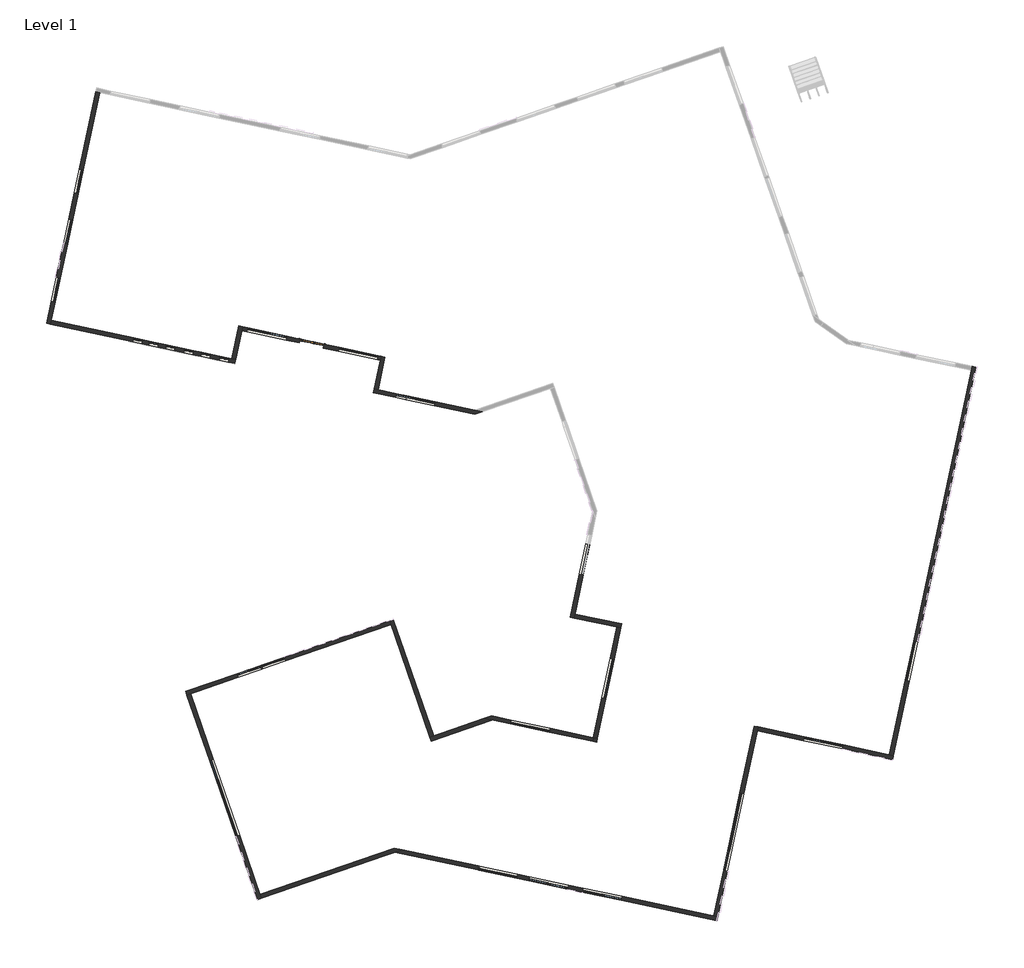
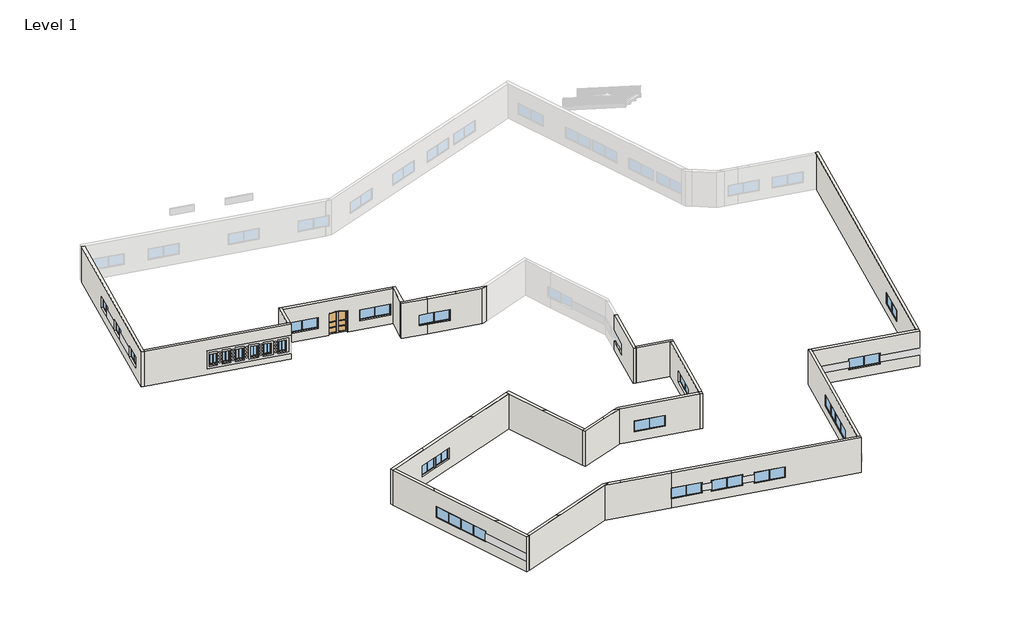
# One storey, part 1 of 2: 25 windows, 22 walls, 1 door.
"""IFC4 building model written with IfcOpenShell, lengths in millimetres."""

from ifc_helpers import new_model, si_unit, point, frame, frame_2d, origin, origin_with_axes, place, context, project, spatial, polyline, circle_curve, trimmed, segment, composite_curve, outline, extrude, faceted_brep, transform, mapped, element, save
from components import door_2f4aef03, aluminum_exterior_window_2_wide_3886_1d34d12d, aluminum_exterior_window_2_wide_3886_5f28be50, aluminum_exterior_window_2_wide_3886_f8047025

model = new_model("IFC4")

# Units and contexts
model_context = context("Model", 3, world=origin())
ifc_project = project(units=[si_unit("LENGTHUNIT", "METRE", prefix="MILLI")], contexts=[model_context])

# Site, building, storey
site = spatial("IfcSite", under=ifc_project)
building = spatial("IfcBuilding", under=site)
storey = spatial("IfcBuildingStorey", under=building, Name="Level 1", Elevation=0.0)

# Door
placement = place(None, origin())
door_shape = door_2f4aef03(model_context)
element("IfcDoor", 1, ObjectType="arched-double-panel_10340 : 72\" x 84\"", at=placement, inside=storey, context=model_context, shape_type="MappedRepresentation", body=[
    mapped(door_shape, transform((465416.15408, 15990.8614282, 0.0), x_axis=(0.9781476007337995, -0.20791169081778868, 0.0), y_axis=(0.20791169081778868, 0.9781476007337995, 0.0), z_axis=(0.0, 0.0, 1.0))),
])

# Walls
element("IfcWall", 2, ObjectType="0.3", at=placement, inside=storey, context=model_context, shape_type="Brep", body=[
    faceted_brep([(470024.8423404, 12302.0519214, 0.0), (472458.7177624, 11784.7157302, 0.0), (472458.7177624, 11784.7157302, 1016.0), (471666.9958848, 11953.0014103, 1016.0), (471666.9958848, 11953.0014103, 2235.2), (472458.7177624, 11784.7157302, 2235.2), (472458.7177624, 11784.7157302, 3900.0), (470024.8423404, 12302.0519214, 3900.0), (472521.0912696, 12078.1600104, 0.0), (470380.6601278, 12533.1226944, 0.0), (470087.2158476, 12595.4962016, 0.0), (470087.2158476, 12595.4962016, 3900.0), (470380.6601278, 12533.1226944, 3900.0), (472521.0912696, 12078.1600104, 3900.0), (472521.0912696, 12078.1600104, 2235.2), (471729.369392, 12246.4456905, 2235.2), (471729.369392, 12246.4456905, 1016.0), (472521.0912696, 12078.1600104, 1016.0)], [[[0, 1, 2, 3, 4, 5, 6, 7]], [[8, 9, 10, 11, 12, 13, 14, 15, 16, 17]], [[1, 0, 10, 9, 8]], [[1, 8, 17, 2]], [[13, 6, 5, 14]], [[0, 7, 11, 10]], [[7, 6, 13, 12, 11]], [[16, 3, 2, 17]], [[3, 16, 15, 4]], [[4, 15, 14, 5]]]),
])
element("IfcWall", 3, ObjectType="0.3", at=placement, inside=storey, context=model_context, shape_type="Brep", body=[
    faceted_brep([(470606.9950747, 15040.8652035, 0.0), (470544.6215674, 14747.4209232, 0.0), (470087.2158476, 12595.4962016, 0.0), (470087.2158476, 12595.4962016, 3900.0), (470544.6215674, 14747.4209232, 3900.0), (470606.9950747, 15040.8652035, 3900.0), (470900.4393549, 14978.4916962, 0.0), (470900.4393549, 14978.4916962, 3900.0), (470380.6601278, 12533.1226944, 3900.0), (470380.6601278, 12533.1226944, 0.0)], [[[0, 1, 2, 3, 4, 5]], [[6, 7, 8, 9]], [[2, 1, 0, 6, 9]], [[3, 2, 9, 8]], [[0, 5, 7, 6]], [[5, 4, 3, 8, 7]]]),
])
element("IfcWall", 4, ObjectType="0.3", at=placement, inside=storey, context=model_context, shape_type="Brep", body=[
    faceted_brep([(478179.6122647, 10875.4042435, 0.0), (477610.7570269, 10996.318157, 0.0), (472521.0912696, 12078.1600104, 0.0), (472521.0912696, 12078.1600104, 1016.0), (474663.8121942, 11622.7106181, 1016.0), (474663.8121942, 11622.7106181, 2235.2), (472521.0912696, 12078.1600104, 2235.2), (472521.0912696, 12078.1600104, 3900.0), (475243.5442016, 11499.4847759, 3900.0), (477610.7570269, 10996.318157, 3900.0), (478179.6122647, 10875.4042435, 3900.0), (472458.7177624, 11784.7157302, 0.0), (477629.912649, 10685.5443254, 0.0), (477629.912649, 10685.5443254, 3900.0), (475181.1706944, 11206.0404956, 3900.0), (472458.7177624, 11784.7157302, 3900.0), (472458.7177624, 11784.7157302, 2235.2), (474601.438687, 11329.2663378, 2235.2), (474601.438687, 11329.2663378, 1016.0), (472458.7177624, 11784.7157302, 1016.0)], [[[0, 1, 2, 3, 4, 5, 6, 7, 8, 9, 10]], [[11, 12, 13, 14, 15, 16, 17, 18, 19]], [[2, 1, 0, 12, 11]], [[2, 11, 19, 3]], [[15, 7, 6, 16]], [[0, 10, 13, 12]], [[17, 5, 4, 18]], [[18, 4, 3, 19]], [[5, 17, 16, 6]], [[13, 10, 9, 8, 14]], [[7, 15, 14, 8]]]),
])
element("IfcWall", 5, ObjectType="0.3", at=placement, inside=storey, context=model_context, shape_type="Brep", body=[
    faceted_brep([(485927.4710533, 1000.338598, 0.0), (484762.4328024, -4480.7354362, 0.0), (484762.4328024, -4480.7354362, 3900.0), (485927.4710533, 1000.338598, 3900.0), (485927.4710533, 1000.338598, 2235.2), (485448.5413821, -1252.8483538, 2235.2), (485448.5413821, -1252.8483538, 1016.0), (485927.4710533, 1000.338598, 1016.0), (485055.8770826, -4543.1089434, 0.0), (485118.2505898, -4249.6646632, 0.0), (486220.9153335, 937.9650907, 0.0), (486220.9153335, 937.9650907, 1016.0), (485741.9856623, -1315.221861, 1016.0), (485741.9856623, -1315.221861, 2235.2), (486220.9153335, 937.9650907, 2235.2), (486220.9153335, 937.9650907, 3900.0), (485118.2505898, -4249.6646632, 3900.0), (485055.8770826, -4543.1089434, 3900.0)], [[[0, 1, 2, 3, 4, 5, 6, 7]], [[8, 9, 10, 11, 12, 13, 14, 15, 16, 17]], [[1, 0, 10, 9, 8]], [[10, 0, 7, 11]], [[3, 15, 14, 4]], [[2, 1, 8, 17]], [[3, 2, 17, 16, 15]], [[5, 13, 12, 6]], [[6, 12, 11, 7]], [[13, 5, 4, 14]]]),
])
element("IfcWall", 6, ObjectType="0.3", at=placement, inside=storey, context=model_context, shape_type="Brep", body=[
    faceted_brep([(485055.8770826, -4543.1089434, 0.0), (488251.0783713, -5222.2699432, 0.0), (488544.5226516, -5284.6434505, 0.0), (488544.5226516, -5284.6434505, 3900.0), (488251.0783713, -5222.2699432, 3900.0), (485055.8770826, -4543.1089434, 3900.0), (485118.2505898, -4249.6646632, 0.0), (485118.2505898, -4249.6646632, 3900.0), (488606.8961588, -4991.1991702, 3900.0), (488606.8961588, -4991.1991702, 0.0)], [[[0, 1, 2, 3, 4, 5]], [[6, 7, 8, 9]], [[2, 1, 0, 6, 9]], [[0, 5, 7, 6]], [[3, 2, 9, 8]], [[5, 4, 3, 8, 7]]]),
])
element("IfcWall", 7, ObjectType="0.3", at=placement, inside=storey, context=model_context, shape_type="SweptSolid", body=[
    extrude(outline(polyline([(2063.5316041, 0.0), (2063.5316041, -3900.0), (-6384.253191, -3900.0), (-6384.253191, 0.0), (2063.5316041, 0.0)]), holes=[polyline([(-3336.4683958, -2235.2), (-336.4683958, -2235.2), (-336.4683958, -1016.0), (-3336.4683958, -1016.0), (-3336.4683958, -2235.2)])]), frame((488115.4903067, -7303.0819381, 0.0), z_axis=(-0.9781476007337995, 0.20791169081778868, 0.0), x_axis=(0.20791169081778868, 0.9781476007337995, 0.0)), (0.0, 0.0, 1.0), 300.0),
])
element("IfcWall", 8, ObjectType="0.3", at=placement, inside=storey, context=model_context, shape_type="SweptSolid", body=[
    extrude(outline(polyline([(486494.6851509, -13485.4503721), (486788.1294311, -13547.8238793), (486725.7559239, -13841.2681596), (486432.3116437, -13778.8946523), (486494.6851509, -13485.4503721)])), origin_with_axes(), (0.0, 0.0, 1.0), 3900.0),
])
element("IfcWall", 9, ObjectType="0.3", at=placement, inside=storey, context=model_context, shape_type="Brep", body=[
    faceted_brep([(486494.6851509, -13485.4503721, 0.0), (478874.7788643, -11865.7892916, 0.0), (478874.7788643, -11865.7892916, 3900.0), (486494.6851509, -13485.4503721, 3900.0), (480332.3552663, -12175.6067199, 2235.2), (480332.3552663, -12175.6067199, 1016.0), (483266.7980685, -12799.3417924, 1016.0), (483266.7980685, -12799.3417924, 2235.2), (486432.3116437, -13778.8946523, 0.0), (486432.3116437, -13778.8946523, 3900.0), (478893.9344864, -12176.5631232, 3900.0), (478325.0792486, -12055.6492098, 3900.0), (478325.0792486, -12055.6492098, 0.0), (478893.9344864, -12176.5631232, 0.0), (480269.981759, -12469.0510002, 2235.2), (483204.4245612, -13092.7860726, 2235.2), (483204.4245612, -13092.7860726, 1016.0), (480269.981759, -12469.0510002, 1016.0)], [[[0, 1, 2, 3], [4, 5, 6, 7]], [[8, 9, 10, 11, 12, 13], [14, 15, 16, 17]], [[1, 0, 8, 13, 12]], [[2, 1, 12, 11]], [[0, 3, 9, 8]], [[3, 2, 11, 10, 9]], [[5, 4, 14, 17]], [[6, 5, 17, 16]], [[7, 6, 16, 15]], [[4, 7, 15, 14]]]),
])
element("IfcWall", 10, ObjectType="0.3", at=placement, inside=storey, context=model_context, shape_type="Brep", body=[
    faceted_brep([(478325.0792486, -12055.6492098, 0.0), (474530.366054, -13366.299456, 0.0), (474246.8032117, -13464.2387969, 0.0), (474246.8032117, -13464.2387969, 3900.0), (474530.366054, -13366.299456, 3900.0), (476983.6617907, -12518.9593551, 3900.0), (478325.0792486, -12055.6492098, 3900.0), (478893.9344864, -12176.5631232, 0.0), (478893.9344864, -12176.5631232, 3900.0), (476840.9787732, -12885.6303895, 3900.0), (474344.7425526, -13747.8016392, 3900.0), (474344.7425526, -13747.8016392, 0.0)], [[[0, 1, 2, 3, 4, 5, 6]], [[7, 8, 9, 10, 11]], [[2, 1, 0, 7, 11]], [[0, 6, 8, 7]], [[3, 2, 11, 10]], [[6, 5, 9, 8]], [[5, 4, 3, 10, 9]]]),
])
element("IfcWall", 11, ObjectType="0.3", at=placement, inside=storey, context=model_context, shape_type="Brep", body=[
    faceted_brep([(471239.3373805, -4756.7515747, 0.0), (471337.2767214, -5040.314417, 0.0), (474246.8032117, -13464.2387969, 0.0), (474246.8032117, -13464.2387969, 3900.0), (472650.2779408, -8841.8343619, 3900.0), (471337.2767214, -5040.314417, 3900.0), (471239.3373805, -4756.7515747, 3900.0), (471522.9002228, -4658.8122338, 0.0), (471522.9002228, -4658.8122338, 3900.0), (473015.5635343, -8980.5061255, 3900.0), (474530.366054, -13366.299456, 3900.0), (474530.366054, -13366.299456, 0.0)], [[[0, 1, 2, 3, 4, 5, 6]], [[7, 8, 9, 10, 11]], [[2, 1, 0, 7, 11]], [[3, 2, 11, 10]], [[0, 6, 8, 7]], [[6, 5, 4, 9, 8]], [[4, 3, 10, 9]]]),
])
element("IfcWall", 12, ObjectType="0.3", at=placement, inside=storey, context=model_context, shape_type="Brep", body=[
    faceted_brep([(456087.7703038, -10307.3183555, 0.0), (456371.3331461, -10209.3790146, 0.0), (471337.2767214, -5040.314417, 0.0), (471337.2767214, -5040.314417, 3900.0), (466781.4051655, -6613.8599974, 3900.0), (460045.3029754, -8940.4321365, 3900.0), (456371.3331461, -10209.3790146, 3900.0), (456087.7703038, -10307.3183555, 3900.0), (463487.6262355, -7751.4933163, 2235.2), (463487.6262355, -7751.4933163, 1016.0), (461759.027149, -8348.5315382, 1016.0), (461759.027149, -8348.5315382, 2235.2), (461664.5062016, -8381.1779852, 2235.2), (461664.5062016, -8381.1779852, 1016.0), (459935.9071152, -8978.2162071, 1016.0), (459935.9071152, -8978.2162071, 2235.2), (455989.830963, -10023.7555132, 0.0), (455989.830963, -10023.7555132, 3900.0), (460186.4503328, -8574.2915014, 3900.0), (466343.6344135, -6447.6710119, 3900.0), (471239.3373805, -4756.7515747, 3900.0), (471239.3373805, -4756.7515747, 0.0), (463389.6868946, -7467.9304741, 2235.2), (461661.0878082, -8064.968696, 2235.2), (461661.0878082, -8064.968696, 1016.0), (463389.6868946, -7467.9304741, 1016.0), (461566.5668608, -8097.6151429, 2235.2), (459837.9677743, -8694.6533648, 2235.2), (459837.9677743, -8694.6533648, 1016.0), (461566.5668608, -8097.6151429, 1016.0)], [[[0, 1, 2, 3, 4, 5, 6, 7], [8, 9, 10, 11], [12, 13, 14, 15]], [[16, 17, 18, 19, 20, 21], [22, 23, 24, 25], [26, 27, 28, 29]], [[2, 1, 0, 16, 21]], [[3, 2, 21, 20]], [[0, 7, 17, 16]], [[9, 8, 22, 25]], [[10, 9, 25, 24]], [[11, 10, 24, 23]], [[8, 11, 23, 22]], [[13, 12, 26, 29]], [[14, 13, 29, 28]], [[15, 14, 28, 27]], [[12, 15, 27, 26]], [[7, 6, 5, 18, 17]], [[4, 3, 20, 19]], [[5, 4, 19, 18]]]),
])
element("IfcWall", 13, ObjectType="0.3", at=placement, inside=storey, context=model_context, shape_type="Brep", body=[
    faceted_brep([(461654.8754918, -25506.7689254, 0.0), (461556.936151, -25223.2060831, 0.0), (456371.3331461, -10209.3790146, 0.0), (456371.3331461, -10209.3790146, 3900.0), (457876.3360847, -14566.7997114, 3900.0), (460471.7147356, -22081.1748388, 3900.0), (461556.936151, -25223.2060831, 3900.0), (461654.8754918, -25506.7689254, 3900.0), (460022.5531441, -20780.7215543, 2235.2), (458068.9483877, -15124.4682805, 2235.2), (458068.9483877, -15124.4682805, 1016.0), (460022.5531441, -20780.7215543, 1016.0), (456087.7703038, -10307.3183555, 0.0), (461371.3126496, -25604.7082662, 0.0), (461371.3126496, -25604.7082662, 3900.0), (460106.4291421, -21942.5030752, 3900.0), (457708.931766, -15001.0517208, 3900.0), (456087.7703038, -10307.3183555, 3900.0), (459738.9903019, -20878.6608952, 1016.0), (457785.3855454, -15222.4076213, 1016.0), (457785.3855454, -15222.4076213, 2235.2), (459738.9903019, -20878.6608952, 2235.2)], [[[0, 1, 2, 3, 4, 5, 6, 7], [8, 9, 10, 11]], [[12, 13, 14, 15, 16, 17], [18, 19, 20, 21]], [[2, 1, 0, 13, 12]], [[3, 2, 12, 17]], [[0, 7, 14, 13]], [[10, 9, 20, 19]], [[10, 19, 18, 11]], [[20, 9, 8, 21]], [[11, 18, 21, 8]], [[3, 17, 16, 4]], [[14, 7, 6, 5, 15]], [[5, 4, 16, 15]]]),
])
element("IfcWall", 14, ObjectType="0.3", at=placement, inside=storey, context=model_context, shape_type="Brep", body=[
    faceted_brep([(471608.90392, -21751.372151, 0.0), (461556.936151, -25223.2060831, 0.0), (461556.936151, -25223.2060831, 3900.0), (465322.4538861, -23922.6396124, 3900.0), (471608.90392, -21751.372151, 3900.0), (472177.7591578, -21872.2860644, 0.0), (472177.7591578, -21872.2860644, 3900.0), (471628.0595421, -22062.1459826, 3900.0), (465760.2246381, -24088.828598, 3900.0), (461654.8754918, -25506.7689254, 3900.0), (461654.8754918, -25506.7689254, 0.0), (471628.0595421, -22062.1459826, 0.0)], [[[0, 1, 2, 3, 4]], [[5, 6, 7, 8, 9, 10, 11]], [[1, 0, 5, 11, 10]], [[0, 4, 6, 5]], [[2, 1, 10, 9]], [[3, 2, 9, 8]], [[4, 3, 8, 7, 6]]]),
])
element("IfcWall", 15, ObjectType="0.3", at=placement, inside=storey, context=model_context, shape_type="Brep", body=[
    faceted_brep([(477996.2393478, -23109.0422077, 0.0), (472177.7591578, -21872.2860644, 0.0), (472177.7591578, -21872.2860644, 3900.0), (473254.9007772, -22101.2395835, 3900.0), (477996.2393478, -23109.0422077, 3900.0), (477996.2393478, -23109.0422077, 2235.2), (477891.765049, -23086.83551, 2235.2), (477891.765049, -23086.83551, 1016.0), (477996.2393478, -23109.0422077, 1016.0), (471628.0595421, -22062.1459826, 0.0), (477933.8658406, -23402.486488, 0.0), (477933.8658406, -23402.486488, 1016.0), (477829.3915417, -23380.2797902, 1016.0), (477829.3915417, -23380.2797902, 2235.2), (477933.8658406, -23402.486488, 2235.2), (477933.8658406, -23402.486488, 3900.0), (473144.6708643, -22384.5116706, 3900.0), (471628.0595421, -22062.1459826, 3900.0), (477996.0791123, -23109.7960566, 0.0), (477996.0791123, -23109.7960566, 1016.0), (477996.0791123, -23109.7960566, 3900.0), (477996.0791123, -23109.7960566, 2235.2)], [[[0, 1, 2, 3, 4, 5, 6, 7, 8]], [[9, 10, 11, 12, 13, 14, 15, 16, 17]], [[1, 0, 18, 10, 9]], [[10, 18, 0, 8, 19, 11]], [[4, 20, 15, 14, 21, 5]], [[2, 1, 9, 17]], [[6, 13, 12, 7]], [[7, 12, 11, 19, 8]], [[13, 6, 5, 21, 14]], [[15, 20, 4, 3, 16]], [[2, 17, 16, 3]]]),
])
element("IfcWall", 16, ObjectType="0.3", at=placement, inside=storey, context=model_context, shape_type="Brep", body=[
    faceted_brep([(495791.7059069, -26892.3733009, 0.0), (495498.2616267, -26829.9997936, 0.0), (477996.0791123, -23109.7960566, 0.0), (477996.0791123, -23109.7960566, 1016.0), (480826.0476157, -23711.3244313, 1016.0), (480826.0476157, -23711.3244313, 2235.2), (477996.0791123, -23109.7960566, 2235.2), (477996.0791123, -23109.7960566, 3900.0), (495498.2616267, -26829.9997936, 3900.0), (495791.7059069, -26892.3733009, 3900.0), (481706.3804563, -23898.4449531, 2235.2), (481706.3804563, -23898.4449531, 1016.0), (484640.8232585, -24522.1800255, 1016.0), (484640.8232585, -24522.1800255, 2235.2), (485716.7856193, -24750.8828854, 2235.2), (485716.7856193, -24750.8828854, 1016.0), (488651.2284215, -25374.6179579, 1016.0), (488651.2284215, -25374.6179579, 2235.2), (477933.7056051, -23403.2403369, 0.0), (495729.3323996, -27185.8175811, 0.0), (495729.3323996, -27185.8175811, 3900.0), (477933.7056051, -23403.2403369, 3900.0), (477933.7056051, -23403.2403369, 2235.2), (480763.6741084, -24004.7687116, 2235.2), (480763.6741084, -24004.7687116, 1016.0), (477933.7056051, -23403.2403369, 1016.0), (481644.0069491, -24191.8892333, 2235.2), (484578.4497513, -24815.6243058, 2235.2), (484578.4497513, -24815.6243058, 1016.0), (481644.0069491, -24191.8892333, 1016.0), (485654.4121121, -25044.3271657, 2235.2), (488588.8549143, -25668.0622381, 2235.2), (488588.8549143, -25668.0622381, 1016.0), (485654.4121121, -25044.3271657, 1016.0), (477933.8658406, -23402.486488, 0.0), (477933.8658406, -23402.486488, 1016.0), (477933.8658406, -23402.486488, 3900.0), (477933.8658406, -23402.486488, 2235.2), (495729.4926352, -27185.0637322, 3900.0)], [[[0, 1, 2, 3, 4, 5, 6, 7, 8, 9], [10, 11, 12, 13], [14, 15, 16, 17]], [[18, 19, 20, 21, 22, 23, 24, 25], [26, 27, 28, 29], [30, 31, 32, 33]], [[2, 1, 0, 19, 18, 34]], [[2, 34, 18, 25, 35, 3]], [[36, 7, 6, 37, 22, 21]], [[0, 9, 38, 20, 19]], [[9, 8, 7, 36, 21, 20, 38]], [[24, 4, 3, 35, 25]], [[4, 24, 23, 5]], [[5, 23, 22, 37, 6]], [[11, 10, 26, 29]], [[12, 11, 29, 28]], [[13, 12, 28, 27]], [[10, 13, 27, 26]], [[15, 14, 30, 33]], [[16, 15, 33, 32]], [[17, 16, 32, 31]], [[14, 17, 31, 30]]]),
])
element("IfcWall", 17, ObjectType="0.3", at=placement, inside=storey, context=model_context, shape_type="Brep", body=[
    faceted_brep([(498517.9641303, -12623.4164732, 0.0), (495498.2616267, -26829.9997936, 0.0), (495498.2616267, -26829.9997936, 3900.0), (498517.9641303, -12623.4164732, 3900.0), (496225.9525445, -23406.483191, 1016.0), (497457.6145071, -17611.969237, 1016.0), (497457.6145071, -17611.969237, 2235.2), (496225.9525445, -23406.483191, 2235.2), (495791.7059069, -26892.3733009, 0.0), (498749.0349033, -12979.2342607, 0.0), (498811.4084105, -12685.7899805, 0.0), (498811.4084105, -12685.7899805, 3900.0), (498749.0349033, -12979.2342607, 3900.0), (495791.7059069, -26892.3733009, 3900.0), (496519.3968247, -23468.8566983, 2235.2), (497751.0587874, -17674.3427442, 2235.2), (497751.0587874, -17674.3427442, 1016.0), (496519.3968247, -23468.8566983, 1016.0)], [[[0, 1, 2, 3], [4, 5, 6, 7]], [[8, 9, 10, 11, 12, 13], [14, 15, 16, 17]], [[1, 0, 10, 9, 8]], [[2, 1, 8, 13]], [[0, 3, 11, 10]], [[11, 3, 2, 13, 12]], [[16, 15, 6, 5]], [[16, 5, 4, 17]], [[6, 15, 14, 7]], [[17, 4, 7, 14]]]),
])
element("IfcWall", 18, ObjectType="0.3", at=placement, inside=storey, context=model_context, shape_type="Brep", body=[
    faceted_brep([(508935.2360781, -14837.6759804, 0.0), (508641.7917979, -14775.3024732, 0.0), (498811.4084105, -12685.7899805, 0.0), (498811.4084105, -12685.7899805, 3900.0), (508641.7917979, -14775.3024732, 3900.0), (508935.2360781, -14837.6759804, 3900.0), (505193.8215053, -14042.4137631, 2235.2), (502259.3787031, -13418.6786906, 2235.2), (502259.3787031, -13418.6786906, 1016.0), (505193.8215053, -14042.4137631, 1016.0), (508872.8625709, -15131.1202607, 0.0), (508872.8625709, -15131.1202607, 3900.0), (498749.0349033, -12979.2342607, 3900.0), (498749.0349033, -12979.2342607, 0.0), (505131.4479981, -14335.8580433, 2235.2), (505131.4479981, -14335.8580433, 1016.0), (502197.0051959, -13712.1229708, 1016.0), (502197.0051959, -13712.1229708, 2235.2)], [[[0, 1, 2, 3, 4, 5], [6, 7, 8, 9]], [[10, 11, 12, 13], [14, 15, 16, 17]], [[2, 1, 0, 10, 13]], [[3, 2, 13, 12]], [[0, 5, 11, 10]], [[5, 4, 3, 12, 11]], [[15, 14, 6, 9]], [[16, 15, 9, 8]], [[17, 16, 8, 7]], [[14, 17, 7, 6]]]),
])
element("IfcWall", 19, ObjectType="0.3", at=placement, inside=storey, context=model_context, shape_type="Brep", body=[
    faceted_brep([(514816.7690152, 14275.6812686, 0.0), (514754.395508, 13982.2369884, 0.0), (508641.7917979, -14775.3024732, 0.0), (508641.7917979, -14775.3024732, 3900.0), (514754.395508, 13982.2369884, 3900.0), (514816.7690152, 14275.6812686, 3900.0), (510450.623508, -6265.4183468, 2235.2), (509826.8884356, -9199.861149, 2235.2), (509826.8884356, -9199.861149, 1016.0), (510450.623508, -6265.4183468, 1016.0), (515110.2132954, 14213.3077614, 0.0), (515110.2132954, 14213.3077614, 3900.0), (508935.2360781, -14837.6759804, 3900.0), (508935.2360781, -14837.6759804, 0.0), (510744.0677882, -6327.791854, 2235.2), (510744.0677882, -6327.791854, 1016.0), (510120.3327158, -9262.2346562, 1016.0), (510120.3327158, -9262.2346562, 2235.2)], [[[0, 1, 2, 3, 4, 5], [6, 7, 8, 9]], [[10, 11, 12, 13], [14, 15, 16, 17]], [[2, 1, 0, 10, 13]], [[3, 2, 13, 12]], [[0, 5, 11, 10]], [[5, 4, 3, 12, 11]], [[15, 14, 6, 9]], [[16, 15, 9, 8]], [[17, 16, 8, 7]], [[14, 17, 7, 6]]]),
])
element("IfcWall", 20, ObjectType="0.3", at=placement, inside=storey, context=model_context, shape_type="Brep", body=[
    faceted_brep([(445876.5607005, 17434.927637, 0.0), (445938.9342078, 17728.3719172, 0.0), (449557.1098582, 34750.5500238, 0.0), (449557.1098582, 34750.5500238, 3900.0), (445938.9342078, 17728.3719172, 3900.0), (445876.5607005, 17434.927637, 3900.0), (447950.2019822, 27190.6428472, 2235.2), (448330.4308824, 28979.4791794, 2235.2), (448330.4308824, 28979.4791794, 1016.0), (447950.2019822, 27190.6428472, 1016.0), (447154.1497004, 23445.5113135, 2235.2), (447534.3786006, 25234.3476457, 2235.2), (447534.3786006, 25234.3476457, 1016.0), (447154.1497004, 23445.5113135, 1016.0), (446230.0105749, 19097.7785583, 2235.2), (446610.2394751, 20886.6148905, 2235.2), (446610.2394751, 20886.6148905, 1016.0), (446230.0105749, 19097.7785583, 1016.0), (445583.1164203, 17497.3011443, 0.0), (445583.1164203, 17497.3011443, 3900.0), (449263.665578, 34812.923531, 3900.0), (449263.665578, 34812.923531, 0.0), (447656.757702, 27253.0163544, 2235.2), (447656.757702, 27253.0163544, 1016.0), (448036.9866022, 29041.8526867, 1016.0), (448036.9866022, 29041.8526867, 2235.2), (446860.7054202, 23507.8848208, 2235.2), (446860.7054202, 23507.8848208, 1016.0), (447240.9343204, 25296.721153, 1016.0), (447240.9343204, 25296.721153, 2235.2), (445936.5662947, 19160.1520655, 2235.2), (445936.5662947, 19160.1520655, 1016.0), (446316.7951949, 20948.9883977, 1016.0), (446316.7951949, 20948.9883977, 2235.2)], [[[0, 1, 2, 3, 4, 5], [6, 7, 8, 9], [10, 11, 12, 13], [14, 15, 16, 17]], [[18, 19, 20, 21], [22, 23, 24, 25], [26, 27, 28, 29], [30, 31, 32, 33]], [[2, 1, 0, 18, 21]], [[3, 2, 21, 20]], [[0, 5, 19, 18]], [[5, 4, 3, 20, 19]], [[23, 22, 6, 9]], [[24, 23, 9, 8]], [[25, 24, 8, 7]], [[22, 25, 7, 6]], [[27, 26, 10, 13]], [[28, 27, 13, 12]], [[29, 28, 12, 11]], [[26, 29, 11, 10]], [[31, 30, 14, 17]], [[32, 31, 17, 16]], [[33, 32, 16, 15]], [[30, 33, 15, 14]]]),
])
element("IfcWall", 21, ObjectType="0.3", at=placement, inside=storey, context=model_context, shape_type="Brep", body=[
    faceted_brep([(459729.2939973, 14797.1404562, 0.0), (459435.8497171, 14859.5139634, 0.0), (445938.9342078, 17728.3719172, 0.0), (445938.9342078, 17728.3719172, 3900.0), (459435.8497171, 14859.5139634, 3900.0), (459729.2939973, 14797.1404562, 3900.0), (459240.2201969, 14901.0963016, 2235.2), (458555.5168764, 15046.6344852, 2235.2), (458555.5168764, 15046.6344852, 1016.0), (459240.2201969, 14901.0963016, 1016.0), (457870.8135559, 15192.1726687, 2235.2), (457186.1102354, 15337.7108523, 2235.2), (457186.1102354, 15337.7108523, 1016.0), (457870.8135559, 15192.1726687, 1016.0), (456599.2216749, 15462.4578668, 2235.2), (455914.5183544, 15607.9960504, 2235.2), (455914.5183544, 15607.9960504, 1016.0), (456599.2216749, 15462.4578668, 1016.0), (455229.8150339, 15753.534234, 2235.2), (454545.1117134, 15899.0724175, 2235.2), (454545.1117134, 15899.0724175, 1016.0), (455229.8150339, 15753.534234, 1016.0), (453958.2231529, 16023.819432, 2235.2), (453273.5198324, 16169.3576156, 2235.2), (453273.5198324, 16169.3576156, 1016.0), (453958.2231529, 16023.819432, 1016.0), (452784.4460321, 16273.313461, 2235.2), (452099.7427116, 16418.8516446, 2235.2), (452099.7427116, 16418.8516446, 1016.0), (452784.4460321, 16273.313461, 1016.0), (459666.92049, 14503.696176, 0.0), (459666.92049, 14503.696176, 3900.0), (445876.5607005, 17434.927637, 3900.0), (445876.5607005, 17434.927637, 0.0), (459177.8466897, 14607.6520214, 2235.2), (459177.8466897, 14607.6520214, 1016.0), (458493.1433691, 14753.190205, 1016.0), (458493.1433691, 14753.190205, 2235.2), (457808.4400486, 14898.7283885, 2235.2), (457808.4400486, 14898.7283885, 1016.0), (457123.7367281, 15044.2665721, 1016.0), (457123.7367281, 15044.2665721, 2235.2), (456536.8481677, 15169.0135866, 2235.2), (456536.8481677, 15169.0135866, 1016.0), (455852.1448472, 15314.5517702, 1016.0), (455852.1448472, 15314.5517702, 2235.2), (455167.4415267, 15460.0899537, 2235.2), (455167.4415267, 15460.0899537, 1016.0), (454482.7382061, 15605.6281373, 1016.0), (454482.7382061, 15605.6281373, 2235.2), (453895.8496457, 15730.3751518, 2235.2), (453895.8496457, 15730.3751518, 1016.0), (453211.1463252, 15875.9133354, 1016.0), (453211.1463252, 15875.9133354, 2235.2), (452722.0725248, 15979.8691808, 2235.2), (452722.0725248, 15979.8691808, 1016.0), (452037.3692043, 16125.4073644, 1016.0), (452037.3692043, 16125.4073644, 2235.2)], [[[0, 1, 2, 3, 4, 5], [6, 7, 8, 9], [10, 11, 12, 13], [14, 15, 16, 17], [18, 19, 20, 21], [22, 23, 24, 25], [26, 27, 28, 29]], [[30, 31, 32, 33], [34, 35, 36, 37], [38, 39, 40, 41], [42, 43, 44, 45], [46, 47, 48, 49], [50, 51, 52, 53], [54, 55, 56, 57]], [[2, 1, 0, 30, 33]], [[3, 2, 33, 32]], [[0, 5, 31, 30]], [[5, 4, 3, 32, 31]], [[35, 34, 6, 9]], [[36, 35, 9, 8]], [[37, 36, 8, 7]], [[34, 37, 7, 6]], [[39, 38, 10, 13]], [[40, 39, 13, 12]], [[41, 40, 12, 11]], [[38, 41, 11, 10]], [[43, 42, 14, 17]], [[44, 43, 17, 16]], [[45, 44, 16, 15]], [[42, 45, 15, 14]], [[47, 46, 18, 21]], [[48, 47, 21, 20]], [[49, 48, 20, 19]], [[46, 49, 19, 18]], [[51, 50, 22, 25]], [[52, 51, 25, 24]], [[53, 52, 24, 23]], [[50, 53, 23, 22]], [[55, 54, 26, 29]], [[56, 55, 29, 28]], [[57, 56, 28, 27]], [[54, 57, 27, 26]]]),
])
element("IfcWall", 22, ObjectType="0.3", at=placement, inside=storey, context=model_context, shape_type="Brep", body=[
    faceted_brep([(459955.6289441, 17304.8829653, 0.0), (459435.8497171, 14859.5139634, 0.0), (459435.8497171, 14859.5139634, 3900.0), (459955.6289441, 17304.8829653, 3900.0), (460249.0732243, 17242.509458, 0.0), (460249.0732243, 17242.509458, 3900.0), (460186.6997171, 16949.0651778, 3900.0), (459729.2939973, 14797.1404562, 3900.0), (459729.2939973, 14797.1404562, 0.0), (460186.6997171, 16949.0651778, 0.0)], [[[0, 1, 2, 3]], [[4, 5, 6, 7, 8, 9]], [[1, 0, 4, 9, 8]], [[0, 3, 5, 4]], [[2, 1, 8, 7]], [[3, 2, 7, 6, 5]]]),
])
element("IfcWall", 23, ObjectType="0.3", at=placement, inside=storey, context=model_context, shape_type="SweptSolid", body=[
    extrude(outline(composite_curve([segment(polyline([(-3552.0734478, -3900.0), (-3552.0734478, 0.0), (847.9265522, 0.0), (847.9265522, -2438.4)]), True, "CONTINUOUS"), segment(trimmed(circle_curve(frame_2d((1762.3265522, 425.8020119)), 3006.6227773), [point((847.9265522, -2438.4))], [point((2676.7265522, -2438.4))], True, "CARTESIAN"), True, "CONTINUOUS"), segment(polyline([(2676.7265522, -2438.4), (2676.7265522, 0.0), (7037.2505382, 0.0), (7037.2505382, -3900.0), (-3552.0734478, -3900.0)]), True, "CONTINUOUS")], self_intersect=False), holes=[polyline([(6837.2505383, -2235.2), (6837.2505383, -1016.0), (3837.2505382, -1016.0), (3837.2505382, -2235.2), (6837.2505383, -2235.2)]), polyline([(-152.0734478, -2235.2), (-152.0734478, -1016.0), (-3152.0734478, -1016.0), (-3152.0734478, -2235.2), (-152.0734478, -2235.2)])]), frame((463661.1518377, 16210.5475814, 0.0), z_axis=(0.20791169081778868, 0.9781476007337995, 0.0), x_axis=(0.9781476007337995, -0.20791169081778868, 0.0)), (0.0, 0.0, 1.0), 300.0),
])

# Windows
aluminum_exterior_window_2_wide_3886_shape = aluminum_exterior_window_2_wide_3886_1d34d12d(model_context)
element("IfcWindow", 24, ObjectType="Aluminum_Exterior_Window_-_2_Wide_3886 : 72\"W. x 48\"H. 2", at=placement, inside=storey, context=model_context, shape_type="MappedRepresentation", body=[
    mapped(aluminum_exterior_window_2_wide_3886_shape, transform((481899.5056856, -12634.9150784, 0.0), x_axis=(-0.9781476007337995, 0.20791169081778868, 0.0), y_axis=(-0.20791169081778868, -0.9781476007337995, 0.0), z_axis=(0.0, 0.0, 1.0))),
])
element("IfcWindow", 25, ObjectType="Aluminum_Exterior_Window_-_2_Wide_3886 : 72\"W. x 48\"H. 2", at=placement, inside=storey, context=model_context, shape_type="MappedRepresentation", body=[
    mapped(aluminum_exterior_window_2_wide_3886_shape, transform((479458.7552327, -23546.8977173, 0.0), x_axis=(-0.9781476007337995, 0.20791169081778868, 0.0), y_axis=(-0.20791169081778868, -0.9781476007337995, 0.0), z_axis=(0.0, 0.0, 1.0))),
])
element("IfcWindow", 26, ObjectType="Aluminum_Exterior_Window_-_2_Wide_3886 : 72\"W. x 48\"H. 2", at=placement, inside=storey, context=model_context, shape_type="MappedRepresentation", body=[
    mapped(aluminum_exterior_window_2_wide_3886_shape, transform((483273.5308756, -24357.7533115, 0.0), x_axis=(-0.9781476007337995, 0.20791169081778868, 0.0), y_axis=(-0.20791169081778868, -0.9781476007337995, 0.0), z_axis=(0.0, 0.0, 1.0))),
])
element("IfcWindow", 27, ObjectType="Aluminum_Exterior_Window_-_2_Wide_3886 : 72\"W. x 48\"H. 2", at=placement, inside=storey, context=model_context, shape_type="MappedRepresentation", body=[
    mapped(aluminum_exterior_window_2_wide_3886_shape, transform((487283.9360386, -25210.1912439, 0.0), x_axis=(-0.9781476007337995, 0.20791169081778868, 0.0), y_axis=(-0.20791169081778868, -0.9781476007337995, 0.0), z_axis=(0.0, 0.0, 1.0))),
])
element("IfcWindow", 28, ObjectType="Aluminum_Exterior_Window_-_2_Wide_3886 : 72\"W. x 48\"H. 2", at=placement, inside=storey, context=model_context, shape_type="MappedRepresentation", body=[
    mapped(aluminum_exterior_window_2_wide_3886_shape, transform((473034.2882677, 11788.5746963, 0.0), x_axis=(0.9781476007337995, -0.20791169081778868, 0.0), y_axis=(0.20791169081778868, 0.9781476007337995, 0.0), z_axis=(0.0, 0.0, 1.0))),
])
element("IfcWindow", 29, ObjectType="Aluminum_Exterior_Window_-_2_Wide_3886 : 72\"W. x 48\"H. 2", at=placement, inside=storey, context=model_context, shape_type="MappedRepresentation", body=[
    mapped(aluminum_exterior_window_2_wide_3886_shape, transform((468781.841628, 15248.3116198, 0.0), x_axis=(0.9781476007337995, -0.20791169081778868, 0.0), y_axis=(0.20791169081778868, 0.9781476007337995, 0.0), z_axis=(0.0, 0.0, 1.0))),
])
element("IfcWindow", 30, ObjectType="Aluminum_Exterior_Window_-_2_Wide_3886 : 72\"W. x 48\"H. 2", at=placement, inside=storey, context=model_context, shape_type="MappedRepresentation", body=[
    mapped(aluminum_exterior_window_2_wide_3886_shape, transform((461945.2511403, 16701.4737875, 0.0), x_axis=(0.9781476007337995, -0.20791169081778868, 0.0), y_axis=(0.20791169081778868, 0.9781476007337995, 0.0), z_axis=(0.0, 0.0, 1.0))),
])
element("IfcWindow", 31, ObjectType="Aluminum_Exterior_Window_-_2_Wide_3886 : 72\"W. x 48\"H. 2", at=placement, inside=storey, context=model_context, shape_type="MappedRepresentation", body=[
    mapped(aluminum_exterior_window_2_wide_3886_shape, transform((510284.7594298, -7894.9422733, 0.0), x_axis=(0.20791169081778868, 0.9781476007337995, 0.0), y_axis=(-0.9781476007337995, 0.20791169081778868, 0.0), z_axis=(0.0, 0.0, 1.0))),
])
element("IfcWindow", 32, ObjectType="Aluminum_Exterior_Window_-_2_Wide_3886 : 72\"W. x 48\"H. 2", at=placement, inside=storey, context=model_context, shape_type="MappedRepresentation", body=[
    mapped(aluminum_exterior_window_2_wide_3886_shape, transform((503564.2975788, -13876.5496848, 0.0), x_axis=(0.9781476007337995, -0.20791169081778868, 0.0), y_axis=(0.20791169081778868, 0.9781476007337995, 0.0), z_axis=(0.0, 0.0, 1.0))),
])
element("IfcWindow", 33, ObjectType="Aluminum_Exterior_Window_-_2_Wide_3886 : 72\"W. x 48\"H. 2", at=placement, inside=storey, context=model_context, shape_type="MappedRepresentation", body=[
    mapped(aluminum_exterior_window_2_wide_3886_shape, transform((497291.7504289, -19241.4931635, 0.0), x_axis=(0.20791169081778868, 0.9781476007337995, 0.0), y_axis=(-0.9781476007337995, 0.20791169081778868, 0.0), z_axis=(0.0, 0.0, 1.0))),
])
element("IfcWindow", 34, ObjectType="Aluminum_Exterior_Window_-_2_Wide_3886 : 72\"W. x 48\"H. 2", at=placement, inside=storey, context=model_context, shape_type="MappedRepresentation", body=[
    mapped(aluminum_exterior_window_2_wide_3886_shape, transform((496683.8235388, -22101.5643153, 0.0), x_axis=(0.20791169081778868, 0.9781476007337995, 0.0), y_axis=(-0.9781476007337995, 0.20791169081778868, 0.0), z_axis=(0.0, 0.0, 1.0))),
])
element("IfcWindow", 35, ObjectType="Aluminum_Exterior_Window_-_2_Wide_3886 : 72\"W. x 48\"H. 2", at=placement, inside=storey, context=model_context, shape_type="MappedRepresentation", body=[
    mapped(aluminum_exterior_window_2_wide_3886_shape, transform((487587.6635994, -8937.1165679, 0.0), x_axis=(-0.20791169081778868, -0.9781476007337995, 0.0), y_axis=(0.9781476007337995, -0.20791169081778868, 0.0), z_axis=(0.0, 0.0, 1.0))),
])
element("IfcWindow", 36, ObjectType="Aluminum_Exterior_Window_-_2_Wide_3886 : 72\"W. x 48\"H. 2", at=placement, inside=storey, context=model_context, shape_type="MappedRepresentation", body=[
    mapped(aluminum_exterior_window_2_wide_3886_shape, transform((458483.8841326, -16703.9469705, 0.0), x_axis=(-0.3264644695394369, 0.9452094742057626, 0.0), y_axis=(-0.9452094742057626, -0.3264644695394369, 0.0), z_axis=(0.0, 0.0, 1.0))),
])
element("IfcWindow", 37, ObjectType="Aluminum_Exterior_Window_-_2_Wide_3886 : 72\"W. x 48\"H. 2", at=placement, inside=storey, context=model_context, shape_type="MappedRepresentation", body=[
    mapped(aluminum_exterior_window_2_wide_3886_shape, transform((459458.0954805, -19524.5718218, 0.0), x_axis=(-0.3264644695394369, 0.9452094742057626, 0.0), y_axis=(-0.9452094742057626, -0.3264644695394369, 0.0), z_axis=(0.0, 0.0, 1.0))),
])
aluminum_exterior_window_2_wide_3886_2_shape = aluminum_exterior_window_2_wide_3886_5f28be50(model_context)
element("IfcWindow", 38, ObjectType="Aluminum_Exterior_Window_-_2_Wide_3886 : 72\"W. x 48\"H.", at=placement, inside=storey, context=model_context, shape_type="MappedRepresentation", body=[
    mapped(aluminum_exterior_window_2_wide_3886_2_shape, transform((463015.1768816, -7784.0738746, 0.0), x_axis=(0.9452094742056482, 0.3264644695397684, 0.0), y_axis=(-0.3264644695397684, 0.9452094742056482, 0.0), z_axis=(0.0, 0.0, 1.0))),
])
element("IfcWindow", 39, ObjectType="Aluminum_Exterior_Window_-_2_Wide_3886 : 72\"W. x 48\"H.", at=placement, inside=storey, context=model_context, shape_type="MappedRepresentation", body=[
    mapped(aluminum_exterior_window_2_wide_3886_2_shape, transform((461192.0568478, -8413.7585434, 0.0), x_axis=(0.9452094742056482, 0.3264644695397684, 0.0), y_axis=(-0.3264644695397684, 0.9452094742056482, 0.0), z_axis=(0.0, 0.0, 1.0))),
])
element("IfcWindow", 40, ObjectType="Aluminum_Exterior_Window_-_2_Wide_3886 : 72\"W. x 48\"H.", at=placement, inside=storey, context=model_context, shape_type="MappedRepresentation", body=[
    mapped(aluminum_exterior_window_2_wide_3886_2_shape, transform((447872.5598882, 27674.5603037, 0.0), x_axis=(-0.20791169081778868, -0.9781476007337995, 0.0), y_axis=(0.9781476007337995, -0.20791169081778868, 0.0), z_axis=(0.0, 0.0, 1.0))),
])
element("IfcWindow", 41, ObjectType="Aluminum_Exterior_Window_-_2_Wide_3886 : 72\"W. x 48\"H.", at=placement, inside=storey, context=model_context, shape_type="MappedRepresentation", body=[
    mapped(aluminum_exterior_window_2_wide_3886_2_shape, transform((447076.5076064, 23929.42877, 0.0), x_axis=(-0.20791169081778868, -0.9781476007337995, 0.0), y_axis=(0.9781476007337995, -0.20791169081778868, 0.0), z_axis=(0.0, 0.0, 1.0))),
])
element("IfcWindow", 42, ObjectType="Aluminum_Exterior_Window_-_2_Wide_3886 : 72\"W. x 48\"H.", at=placement, inside=storey, context=model_context, shape_type="MappedRepresentation", body=[
    mapped(aluminum_exterior_window_2_wide_3886_2_shape, transform((446152.3684808, 19581.6960148, 0.0), x_axis=(-0.20791169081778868, -0.9781476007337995, 0.0), y_axis=(0.9781476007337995, -0.20791169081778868, 0.0), z_axis=(0.0, 0.0, 1.0))),
])
aluminum_exterior_window_2_wide_3886_3_shape = aluminum_exterior_window_2_wide_3886_f8047025(model_context)
element("IfcWindow", 43, ObjectType="Aluminum_Exterior_Window_-_2_Wide_3886 : 72\"W. x 48\"H. 3", at=placement, inside=storey, context=model_context, shape_type="MappedRepresentation", body=[
    mapped(aluminum_exterior_window_2_wide_3886_3_shape, transform((459860.4357521, 14588.7634909, 0.0), x_axis=(0.9781476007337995, -0.20791169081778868, 0.0), y_axis=(0.20791169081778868, 0.9781476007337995, 0.0), z_axis=(0.0, 0.0, 1.0))),
])
element("IfcWindow", 44, ObjectType="Aluminum_Exterior_Window_-_2_Wide_3886 : 72\"W. x 48\"H. 3", at=placement, inside=storey, context=model_context, shape_type="MappedRepresentation", body=[
    mapped(aluminum_exterior_window_2_wide_3886_3_shape, transform((458491.0291111, 14879.8398581, 0.0), x_axis=(0.9781476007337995, -0.20791169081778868, 0.0), y_axis=(0.20791169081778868, 0.9781476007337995, 0.0), z_axis=(0.0, 0.0, 1.0))),
])
element("IfcWindow", 45, ObjectType="Aluminum_Exterior_Window_-_2_Wide_3886 : 72\"W. x 48\"H. 3", at=placement, inside=storey, context=model_context, shape_type="MappedRepresentation", body=[
    mapped(aluminum_exterior_window_2_wide_3886_3_shape, transform((457219.4372301, 15150.1250561, 0.0), x_axis=(0.9781476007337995, -0.20791169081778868, 0.0), y_axis=(0.20791169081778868, 0.9781476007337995, 0.0), z_axis=(0.0, 0.0, 1.0))),
])
element("IfcWindow", 46, ObjectType="Aluminum_Exterior_Window_-_2_Wide_3886 : 72\"W. x 48\"H. 3", at=placement, inside=storey, context=model_context, shape_type="MappedRepresentation", body=[
    mapped(aluminum_exterior_window_2_wide_3886_3_shape, transform((455850.0305891, 15441.2014233, 0.0), x_axis=(0.9781476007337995, -0.20791169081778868, 0.0), y_axis=(0.20791169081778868, 0.9781476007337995, 0.0), z_axis=(0.0, 0.0, 1.0))),
])
element("IfcWindow", 47, ObjectType="Aluminum_Exterior_Window_-_2_Wide_3886 : 72\"W. x 48\"H. 3", at=placement, inside=storey, context=model_context, shape_type="MappedRepresentation", body=[
    mapped(aluminum_exterior_window_2_wide_3886_3_shape, transform((454578.4387081, 15711.4866214, 0.0), x_axis=(0.9781476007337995, -0.20791169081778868, 0.0), y_axis=(0.20791169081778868, 0.9781476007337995, 0.0), z_axis=(0.0, 0.0, 1.0))),
])
element("IfcWindow", 48, ObjectType="Aluminum_Exterior_Window_-_2_Wide_3886 : 72\"W. x 48\"H. 3", at=placement, inside=storey, context=model_context, shape_type="MappedRepresentation", body=[
    mapped(aluminum_exterior_window_2_wide_3886_3_shape, transform((453404.6615872, 15960.9806503, 0.0), x_axis=(0.9781476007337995, -0.20791169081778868, 0.0), y_axis=(0.20791169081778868, 0.9781476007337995, 0.0), z_axis=(0.0, 0.0, 1.0))),
])

save(model, "model.ifc")
